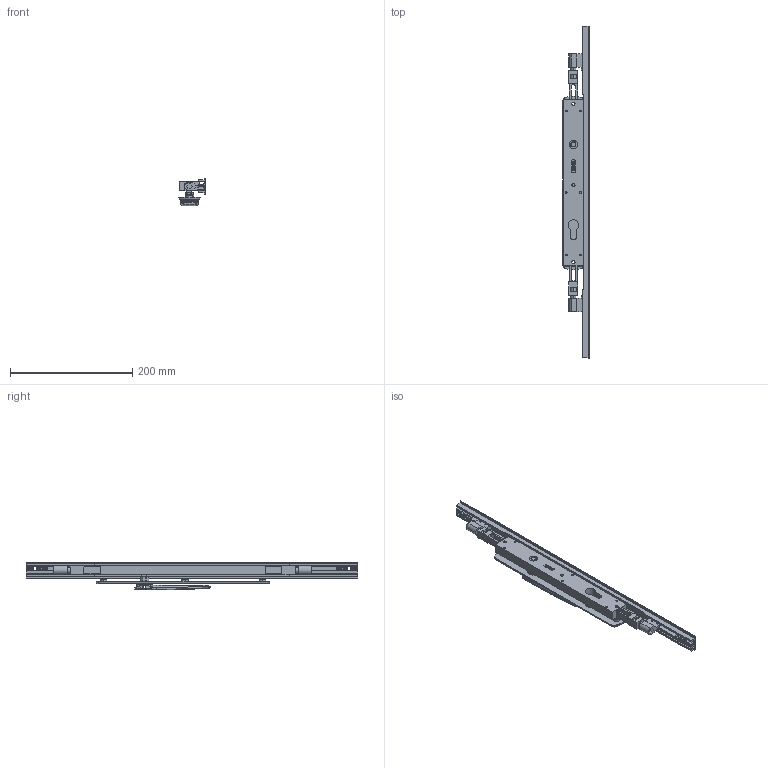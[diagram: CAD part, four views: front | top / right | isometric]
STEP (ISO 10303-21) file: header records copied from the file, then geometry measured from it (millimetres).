
FILE_DESCRIPTION (( 'STEP AP214' ), '1' );
FILE_NAME ('TPL-W-EU-610-L 06Nov2024.STEP', '2024-11-27T01:37:51', ( '' ), ( '' ), 'SwSTEP 2.0', 'SolidWorks 2023', '' );
FILE_SCHEMA (( 'AUTOMOTIVE_DESIGN' ));
Length unit declared in the file: millimetre
Products named in the file (18): Copy of TPGen2 handle non-keyed long zinc - simplified^TPL-W-EU-110 04Nov2024_Vertical; Copy of Adapter DnF - simplfied^TPL-W-EU-110 04Nov2024_26mm backset; Copy of TPLGen2 lock body keyed assembly^TPL-W-EU-110 04Nov2024_Bolts extended; Copy of COV-112-B Cover B suit TPLGen2 standard range^TPL-W-EU-110 04Nov2024_2870mm; Copy of COV-112-C Cover C TPLGen2 Lock body^TPL-W-EU-110 04Nov2024; Copy of LKC-585 Rotator body zinc^Copy of TPGen2 handle non-keyed long zinc - simplified_TPL-W-EU-110 04Nov2024; Copy of LKC-531 Lock twinpoint transmission rod wood system^TPL-W-EU-110 04Nov2024_Standard Range (588.7mm); Copy of COV-112-A Cover A suit TPLGen2 standard range^TPL-W-EU-110 04Nov2024_1335mm; Copy of LKC-584 Pivot body zinc - simplified^Copy of TPGen2 handle non-keyed long zinc - simplified_TPL-W-EU-110 04Nov2024; TPL-W-EU-610-L 06Nov2024; Copy of LKC-586 Spindle square 8mm with M4 hole^Copy of TPGen2 handle non-keyed long zinc - simplified_TPL-W-EU-110 04Nov2024_25mm; Copy of Adapter CnE - simplfied^TPL-W-EU-110 04Nov2024_26mm backset; Copy of TPLGen2 lock body keyed^Copy of TPLGen2 lock body keyed assembly_TPL-W-EU-110 04Nov2024; Bolt.step; Copy of LKC-583 Escutcheon plate unkeyed 285mm long zinc - simplified^Copy of TPGen2 handle non-keyed long zinc - simplified_TPL-W-EU-110 04Nov2024; Copy of TPLGen2 push rod - simplified^Copy of TPLGen2 lock body keyed assembly_TPL-W-EU-110 04Nov2024_Female thread M10; Copy of LKC-505 Swing handle zinc - simplified^Copy of TPGen2 handle non-keyed long zinc - simplified_TPL-W-EU-110 04Nov2024; Copy of Copy of LKC-531 Lock twinpoint transmission rod wood system^TPL-W-EU-110 04Nov2024_Standard Range 2891.7mm
Assembly tree (15 placements, depth 3):
  Copy of COV-112-B Cover B suit TPLGen2 standard range^TPL-W-EU-110 04Nov2024_2870mm
  Copy of COV-112-A Cover A suit TPLGen2 standard range^TPL-W-EU-110 04Nov2024_1335mm
  TPL-W-EU-610-L 06Nov2024
    Copy of TPLGen2 lock body keyed assembly^TPL-W-EU-110 04Nov2024_Bolts extended
      Copy of TPLGen2 lock body keyed^Copy of TPLGen2 lock body keyed assembly_TPL-W-EU-110 04Nov2024
      Copy of TPLGen2 push rod - simplified^Copy of TPLGen2 lock body keyed assembly_TPL-W-EU-110 04Nov2024_Female thread M10  x2
    Copy of TPGen2 handle non-keyed long zinc - simplified^TPL-W-EU-110 04Nov2024_Vertical
      Copy of LKC-583 Escutcheon plate unkeyed 285mm long zinc - simplified^Copy of TPGen2 handle non-keyed long zinc - simplified_TPL-W-EU-110 04Nov2024
      Copy of LKC-505 Swing handle zinc - simplified^Copy of TPGen2 handle non-keyed long zinc - simplified_TPL-W-EU-110 04Nov2024
      Copy of LKC-585 Rotator body zinc^Copy of TPGen2 handle non-keyed long zinc - simplified_TPL-W-EU-110 04Nov2024
      Copy of LKC-586 Spindle square 8mm with M4 hole^Copy of TPGen2 handle non-keyed long zinc - simplified_TPL-W-EU-110 04Nov2024_25mm
      Copy of LKC-584 Pivot body zinc - simplified^Copy of TPGen2 handle non-keyed long zinc - simplified_TPL-W-EU-110 04Nov2024
    Copy of COV-112-C Cover C TPLGen2 Lock body^TPL-W-EU-110 04Nov2024
    Copy of Copy of LKC-531 Lock twinpoint transmission rod wood system^TPL-W-EU-110 04Nov2024_Standard Range 2891.7mm
    Copy of LKC-531 Lock twinpoint transmission rod wood system^TPL-W-EU-110 04Nov2024_Standard Range (588.7mm)
    Copy of Adapter CnE - simplfied^TPL-W-EU-110 04Nov2024_26mm backset
    Copy of Adapter DnF - simplfied^TPL-W-EU-110 04Nov2024_26mm backset
  Bolt.step
Bounding box: 43.5 x 544 x 45.86 mm (x, y, z)
Volume: 269442.8 mm3; surface area: 134922.3 mm2
Topology: 13 solids, 13 shells, 889 faces, 2193 edges, 1364 vertices
Faces by surface type: plane 310, bspline 241, cylinder 208, cone 70, torus 52, sphere 8
Entity records: 31874 total; most frequent: CARTESIAN_POINT 12777, ORIENTED_EDGE 4194, DIRECTION 3431, EDGE_CURVE 2097, VERTEX_POINT 1304, AXIS2_PLACEMENT_3D 1260, EDGE_LOOP 949, VECTOR 911
